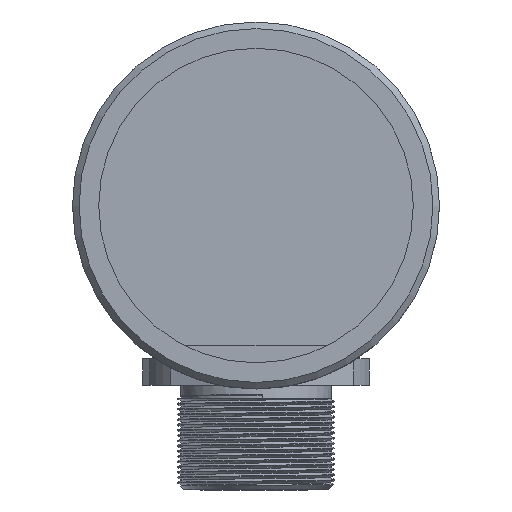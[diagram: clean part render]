
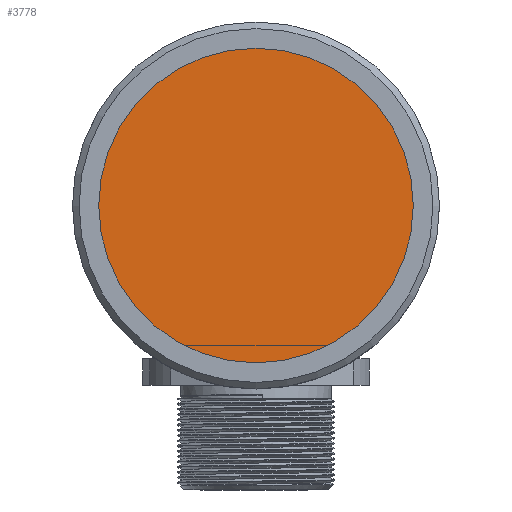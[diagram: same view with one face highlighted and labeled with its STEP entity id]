
A CAD part, left-side view. The second image highlights one B-rep face of the part: STEP entity #3778.
In plain terms, the highlighted planar face has unit normal (-1, 0, 0).
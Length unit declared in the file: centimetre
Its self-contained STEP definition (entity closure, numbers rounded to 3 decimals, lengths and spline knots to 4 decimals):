
#818=PLANE('',#4048);
#1383=VERTEX_POINT('',#6572);
#1634=CIRCLE('',#4046,1.2);
#1867=EDGE_CURVE('',#1383,#1383,#1634,.T.);
#2464=ORIENTED_EDGE('',*,*,#1867,.T.);
#3224=EDGE_LOOP('',(#2464));
#3506=FACE_BOUND('',#3224,.T.);
#3778=ADVANCED_FACE('',(#3506),#818,.T.);
#4046=AXIS2_PLACEMENT_3D('',#6571,#4474,#4475);
#4048=AXIS2_PLACEMENT_3D('',#6575,#4478,$);
#4474=DIRECTION('',(-1.,0.,0.));
#4475=DIRECTION('',(0.,0.,1.2));
#4478=DIRECTION('',(-1.,0.,0.));
#6571=CARTESIAN_POINT('',(0.1,0.,0.));
#6572=CARTESIAN_POINT('',(0.1,0.,1.2));
#6575=CARTESIAN_POINT('',(0.1,0.,0.));
